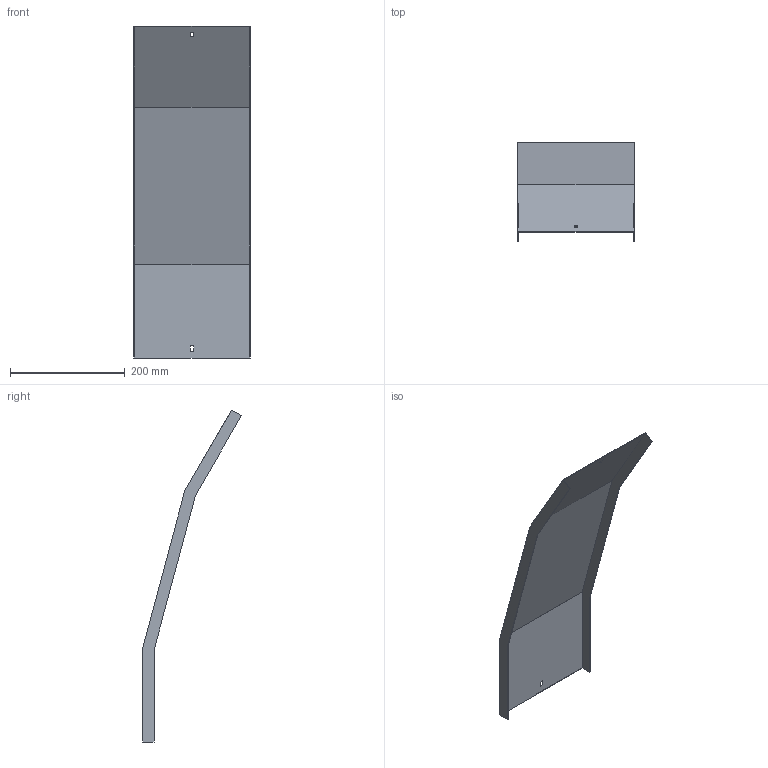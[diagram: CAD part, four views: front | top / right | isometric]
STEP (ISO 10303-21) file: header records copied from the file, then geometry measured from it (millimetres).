
FILE_DESCRIPTION (( 'STEP AP214' ), '1' );
FILE_NAME ('35N5C200.step', '2025-02-21T10:28:27', ( '' ), ( '' ), 'SwSTEP 2.0', 'SolidWorks 2023', '' );
FILE_SCHEMA (( 'AUTOMOTIVE_DESIGN' ));
Length unit declared in the file: millimetre
Products named in the file (1): 35N5C200
Bounding box: 203 x 172.21 x 578.06 mm (x, y, z)
Volume: 218821.6 mm3; surface area: 294373.4 mm2
Topology: 1 solids, 1 shells, 26 faces, 72 edges, 48 vertices
Faces by surface type: plane 26
Entity records: 847 total; most frequent: CARTESIAN_POINT 147, ORIENTED_EDGE 144, DIRECTION 126, VECTOR 72, LINE 72, EDGE_CURVE 72, VERTEX_POINT 48, EDGE_LOOP 30
